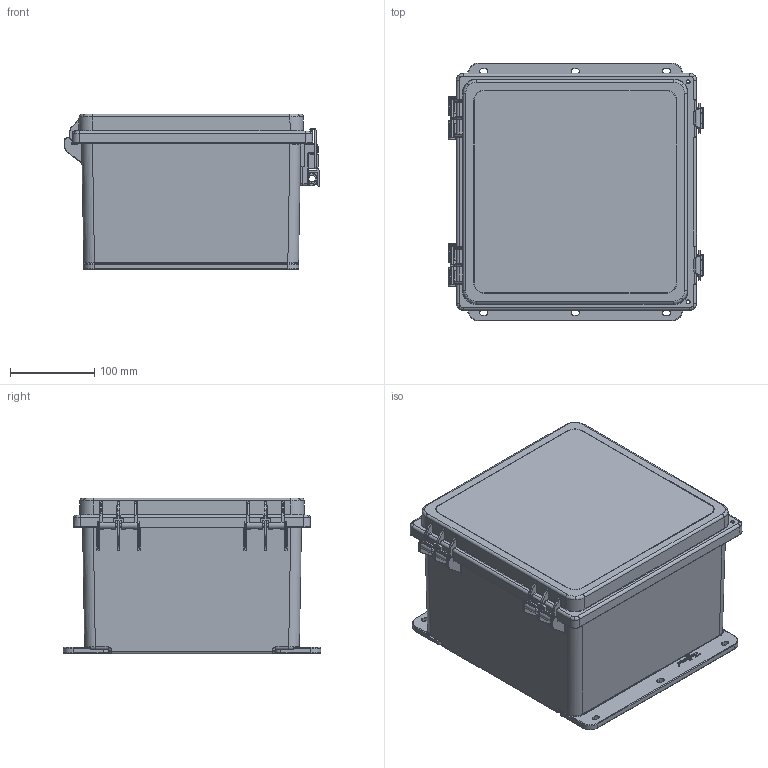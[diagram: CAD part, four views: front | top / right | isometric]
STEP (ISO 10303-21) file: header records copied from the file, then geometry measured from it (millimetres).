
FILE_DESCRIPTION (( 'STEP AP203' ), '1' );
FILE_NAME ('a10106phc.STEP', '2019-07-12T19:33:01', ( '' ), ( '' ), 'SwSTEP 2.0', 'SolidWorks 2016', '' );
FILE_SCHEMA (( 'CONFIG_CONTROL_DESIGN' ));
Length unit declared in the file: inch
Products named in the file (8): 87925602_87925602; 87925623_87925623; 87925636_87925636; 87934975_87934975; 87934973_87934973; 87934971_87934971; 87938571_87938571; a10106phc
Assembly tree (9 placements, depth 3):
  a10106phc
    87925602_87925602
    87925623_87925623
    87925636_87925636  x2
    87938571_87938571  x2
      87934975_87934975
      87934973_87934973
      87934971_87934971
Bounding box: 304.45 x 306.81 x 185.13 mm (x, y, z)
Volume: 1312395.6 mm3; surface area: 851235.3 mm2
Topology: 12 solids, 12 shells, 5383 faces, 13697 edges, 8069 vertices
Faces by surface type: cylinder 1691, plane 1543, bspline 1348, sphere 427, torus 275, cone 99
Entity records: 150689 total; most frequent: CARTESIAN_POINT 66522, ORIENTED_EDGE 19054, DIRECTION 14995, EDGE_CURVE 9527, VERTEX_POINT 5801, AXIS2_PLACEMENT_3D 5235, VECTOR 4525, LINE 4525
